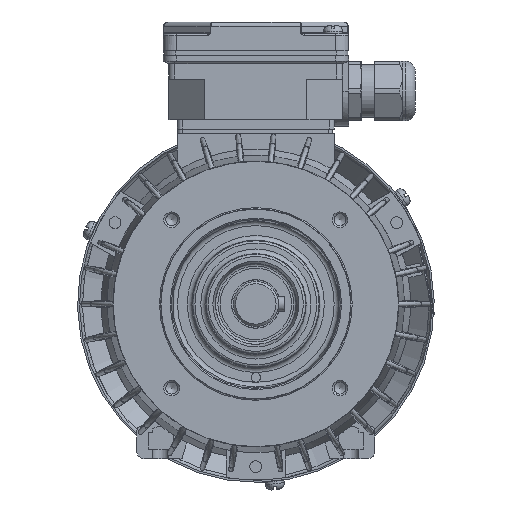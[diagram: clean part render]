
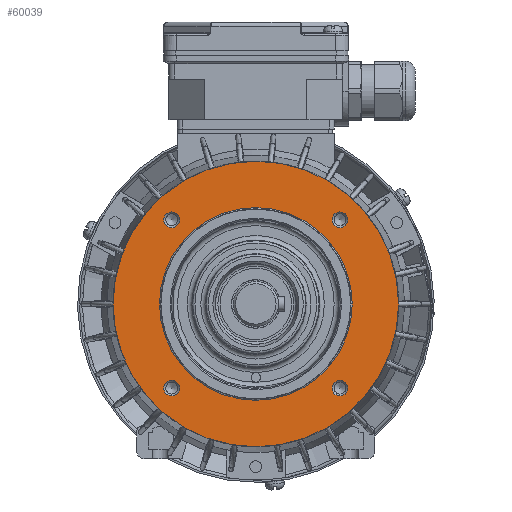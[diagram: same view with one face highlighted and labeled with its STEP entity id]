
A CAD part, left-side view. The second image highlights one B-rep face of the part: STEP entity #60039.
In plain terms, the highlighted planar face has unit normal (-1, 0, 0).
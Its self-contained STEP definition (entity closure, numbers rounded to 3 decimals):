
#15738=ORIENTED_EDGE('',*,*,#25983,.T.);
#15739=ORIENTED_EDGE('',*,*,#25982,.T.);
#15740=ORIENTED_EDGE('',*,*,#25981,.T.);
#15741=ORIENTED_EDGE('',*,*,#25980,.T.);
#15742=ORIENTED_EDGE('',*,*,#25979,.T.);
#15743=ORIENTED_EDGE('',*,*,#26004,.T.);
#25979=EDGE_CURVE('',#31661,#31661,#34975,.F.);
#25980=EDGE_CURVE('',#31662,#31662,#34976,.F.);
#25981=EDGE_CURVE('',#31663,#31663,#34977,.F.);
#25982=EDGE_CURVE('',#31664,#31664,#34978,.F.);
#25983=EDGE_CURVE('',#31665,#31665,#34979,.F.);
#26004=EDGE_CURVE('',#31686,#31686,#34988,.T.);
#31661=VERTEX_POINT('',#84816);
#31662=VERTEX_POINT('',#84819);
#31663=VERTEX_POINT('',#84822);
#31664=VERTEX_POINT('',#84825);
#31665=VERTEX_POINT('',#84828);
#31686=VERTEX_POINT('',#84963);
#34975=CIRCLE('',#63535,40.5);
#34976=CIRCLE('',#63537,3.3);
#34977=CIRCLE('',#63539,3.3);
#34978=CIRCLE('',#63541,3.3);
#34979=CIRCLE('',#63543,3.3);
#34988=CIRCLE('',#63557,60.);
#37293=EDGE_LOOP('',(#15738));
#37294=EDGE_LOOP('',(#15739));
#37295=EDGE_LOOP('',(#15740));
#37296=EDGE_LOOP('',(#15741));
#37297=EDGE_LOOP('',(#15742));
#37298=EDGE_LOOP('',(#15743));
#40249=FACE_BOUND('',#37293,.T.);
#40250=FACE_BOUND('',#37294,.T.);
#40251=FACE_BOUND('',#37295,.T.);
#40252=FACE_BOUND('',#37296,.T.);
#40253=FACE_BOUND('',#37297,.T.);
#40254=FACE_BOUND('',#37298,.T.);
#42382=PLANE('',#63556);
#60039=ADVANCED_FACE('',(#40249,#40250,#40251,#40252,#40253,#40254),#42382,
 .T.);
#63535=AXIS2_PLACEMENT_3D('',#84815,#71969,#71970);
#63537=AXIS2_PLACEMENT_3D('',#84818,#71973,#71974);
#63539=AXIS2_PLACEMENT_3D('',#84821,#71977,#71978);
#63541=AXIS2_PLACEMENT_3D('',#84824,#71981,#71982);
#63543=AXIS2_PLACEMENT_3D('',#84827,#71985,#71986);
#63556=AXIS2_PLACEMENT_3D('',#84961,#72019,#72020);
#63557=AXIS2_PLACEMENT_3D('',#84962,#72021,#72022);
#71969=DIRECTION('',(-1.,0.,0.));
#71970=DIRECTION('',(0.,0.,-1.));
#71973=DIRECTION('',(-1.,0.,0.));
#71974=DIRECTION('',(0.,0.,-1.));
#71977=DIRECTION('',(-1.,0.,0.));
#71978=DIRECTION('',(0.,0.,-1.));
#71981=DIRECTION('',(-1.,0.,0.));
#71982=DIRECTION('',(0.,0.,-1.));
#71985=DIRECTION('',(-1.,0.,0.));
#71986=DIRECTION('',(0.,0.,-1.));
#72019=DIRECTION('',(-1.,0.,0.));
#72020=DIRECTION('',(0.,0.,-1.));
#72021=DIRECTION('',(-1.,0.,0.));
#72022=DIRECTION('',(0.,0.,-1.));
#84815=CARTESIAN_POINT('',(-44.8,0.,0.));
#84816=CARTESIAN_POINT('',(-44.8,0.,-40.5));
#84818=CARTESIAN_POINT('',(-44.8,35.355,35.355));
#84819=CARTESIAN_POINT('',(-44.8,35.355,32.055));
#84821=CARTESIAN_POINT('',(-44.8,-35.355,35.355));
#84822=CARTESIAN_POINT('',(-44.8,-35.355,32.055));
#84824=CARTESIAN_POINT('',(-44.8,-35.355,-35.355));
#84825=CARTESIAN_POINT('',(-44.8,-35.355,-38.655));
#84827=CARTESIAN_POINT('',(-44.8,35.355,-35.355));
#84828=CARTESIAN_POINT('',(-44.8,35.355,-38.655));
#84961=CARTESIAN_POINT('',(-44.8,0.,40.));
#84962=CARTESIAN_POINT('',(-44.8,0.,0.));
#84963=CARTESIAN_POINT('',(-44.8,0.,-60.));
